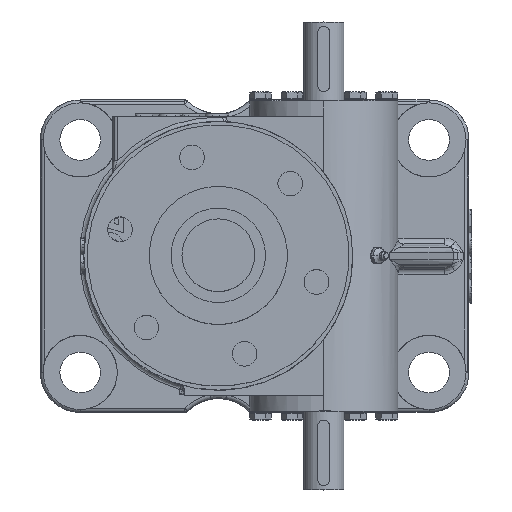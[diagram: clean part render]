
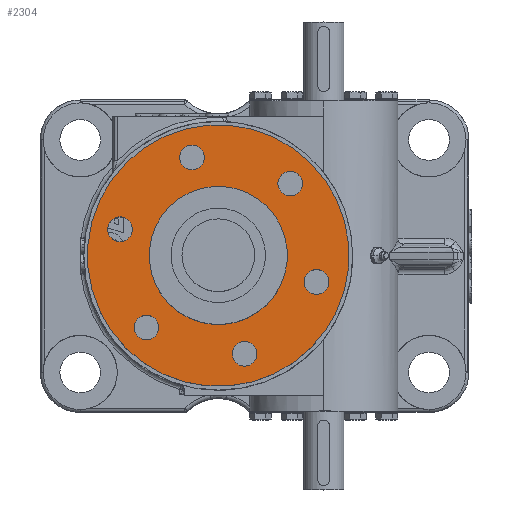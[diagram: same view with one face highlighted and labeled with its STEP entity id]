
A CAD part, top view. The second image highlights one B-rep face of the part: STEP entity #2304.
In plain terms, the highlighted planar face has unit normal (0, 0, 1).
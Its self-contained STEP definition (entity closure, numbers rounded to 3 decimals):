
#2304=ADVANCED_FACE('',(#6810,#6811,#6812,#6813,#6814,#6815,#6816,#6817),#6818,.T.);
#6810=FACE_BOUND('',#12723,.T.);
#6811=FACE_BOUND('',#12724,.T.);
#6812=FACE_BOUND('',#12725,.T.);
#6813=FACE_BOUND('',#12726,.T.);
#6814=FACE_BOUND('',#12727,.T.);
#6815=FACE_BOUND('',#12728,.T.);
#6816=FACE_OUTER_BOUND('',#12729,.T.);
#6817=FACE_BOUND('',#12730,.T.);
#6818=PLANE('',#12731);
#12723=EDGE_LOOP('',(#31684,#31685));
#12724=EDGE_LOOP('',(#31686,#31687));
#12725=EDGE_LOOP('',(#31688,#31689));
#12726=EDGE_LOOP('',(#31690,#31691));
#12727=EDGE_LOOP('',(#31692,#31693));
#12728=EDGE_LOOP('',(#31694,#31695));
#12729=EDGE_LOOP('',(#31696,#31697));
#12730=EDGE_LOOP('',(#31698,#31699));
#12731=AXIS2_PLACEMENT_3D('',#31700,#31701,#31702);
#31684=ORIENTED_EDGE('',*,*,#38018,.T.);
#31685=ORIENTED_EDGE('',*,*,#38014,.T.);
#31686=ORIENTED_EDGE('',*,*,#38020,.T.);
#31687=ORIENTED_EDGE('',*,*,#38010,.T.);
#31688=ORIENTED_EDGE('',*,*,#38022,.T.);
#31689=ORIENTED_EDGE('',*,*,#38006,.T.);
#31690=ORIENTED_EDGE('',*,*,#38024,.T.);
#31691=ORIENTED_EDGE('',*,*,#38002,.T.);
#31692=ORIENTED_EDGE('',*,*,#38026,.T.);
#31693=ORIENTED_EDGE('',*,*,#37998,.T.);
#31694=ORIENTED_EDGE('',*,*,#38028,.T.);
#31695=ORIENTED_EDGE('',*,*,#37994,.T.);
#31696=ORIENTED_EDGE('',*,*,#37992,.T.);
#31697=ORIENTED_EDGE('',*,*,#38029,.T.);
#31698=ORIENTED_EDGE('',*,*,#38030,.F.);
#31699=ORIENTED_EDGE('',*,*,#37986,.F.);
#31700=CARTESIAN_POINT('',(0.0,0.0,249.));
#31701=DIRECTION('',(0.0,-0.0,1.0));
#31702=DIRECTION('',(0.707,0.707,0.0));
#37986=EDGE_CURVE('',#48309,#48312,#48313,.T.);
#37992=EDGE_CURVE('',#48318,#48322,#48324,.T.);
#37994=EDGE_CURVE('',#48328,#48325,#48329,.T.);
#37998=EDGE_CURVE('',#48336,#48333,#48337,.T.);
#38002=EDGE_CURVE('',#48344,#48341,#48345,.T.);
#38006=EDGE_CURVE('',#48352,#48349,#48353,.T.);
#38010=EDGE_CURVE('',#48360,#48357,#48361,.T.);
#38014=EDGE_CURVE('',#48368,#48365,#48369,.T.);
#38018=EDGE_CURVE('',#48365,#48368,#48374,.T.);
#38020=EDGE_CURVE('',#48357,#48360,#48376,.T.);
#38022=EDGE_CURVE('',#48349,#48352,#48378,.T.);
#38024=EDGE_CURVE('',#48341,#48344,#48380,.T.);
#38026=EDGE_CURVE('',#48333,#48336,#48382,.T.);
#38028=EDGE_CURVE('',#48325,#48328,#48384,.T.);
#38029=EDGE_CURVE('',#48322,#48318,#48385,.T.);
#38030=EDGE_CURVE('',#48312,#48309,#48386,.T.);
#48309=VERTEX_POINT('',#64720);
#48312=VERTEX_POINT('',#64724);
#48313=CIRCLE('',#64725,47.5);
#48318=VERTEX_POINT('',#64731);
#48322=VERTEX_POINT('',#64736);
#48324=CIRCLE('',#64739,90.);
#48325=VERTEX_POINT('',#64740);
#48328=VERTEX_POINT('',#64744);
#48329=CIRCLE('',#64745,8.5);
#48333=VERTEX_POINT('',#64750);
#48336=VERTEX_POINT('',#64754);
#48337=CIRCLE('',#64755,8.5);
#48341=VERTEX_POINT('',#64760);
#48344=VERTEX_POINT('',#64764);
#48345=CIRCLE('',#64765,8.5);
#48349=VERTEX_POINT('',#64770);
#48352=VERTEX_POINT('',#64774);
#48353=CIRCLE('',#64775,8.5);
#48357=VERTEX_POINT('',#64780);
#48360=VERTEX_POINT('',#64784);
#48361=CIRCLE('',#64785,8.5);
#48365=VERTEX_POINT('',#64790);
#48368=VERTEX_POINT('',#64794);
#48369=CIRCLE('',#64795,8.5);
#48374=CIRCLE('',#64801,8.5);
#48376=CIRCLE('',#64803,8.5);
#48378=CIRCLE('',#64805,8.5);
#48380=CIRCLE('',#64807,8.5);
#48382=CIRCLE('',#64809,8.5);
#48384=CIRCLE('',#64811,8.5);
#48385=CIRCLE('',#64812,90.);
#48386=CIRCLE('',#64813,47.5);
#64720=CARTESIAN_POINT('',(33.588,33.588,249.));
#64724=CARTESIAN_POINT('',(-33.588,-33.588,249.));
#64725=AXIS2_PLACEMENT_3D('',#76605,#76606,#76607);
#64731=CARTESIAN_POINT('',(63.64,63.64,249.));
#64736=CARTESIAN_POINT('',(-63.64,-63.64,249.));
#64739=AXIS2_PLACEMENT_3D('',#76617,#76618,#76619);
#64740=CARTESIAN_POINT('',(55.508,55.508,249.));
#64744=CARTESIAN_POINT('',(43.487,43.487,249.));
#64745=AXIS2_PLACEMENT_3D('',#76621,#76622,#76623);
#64750=CARTESIAN_POINT('',(-20.317,75.825,249.));
#64754=CARTESIAN_POINT('',(-15.917,59.404,249.));
#64755=AXIS2_PLACEMENT_3D('',#76629,#76630,#76631);
#64760=CARTESIAN_POINT('',(-75.825,20.317,249.));
#64764=CARTESIAN_POINT('',(-59.404,15.917,249.));
#64765=AXIS2_PLACEMENT_3D('',#76637,#76638,#76639);
#64770=CARTESIAN_POINT('',(-55.508,-55.508,249.));
#64774=CARTESIAN_POINT('',(-43.487,-43.487,249.));
#64775=AXIS2_PLACEMENT_3D('',#76645,#76646,#76647);
#64780=CARTESIAN_POINT('',(20.317,-75.825,249.));
#64784=CARTESIAN_POINT('',(15.917,-59.404,249.));
#64785=AXIS2_PLACEMENT_3D('',#76653,#76654,#76655);
#64790=CARTESIAN_POINT('',(75.825,-20.317,249.));
#64794=CARTESIAN_POINT('',(59.404,-15.917,249.));
#64795=AXIS2_PLACEMENT_3D('',#76661,#76662,#76663);
#64801=AXIS2_PLACEMENT_3D('',#76671,#76672,#76673);
#64803=AXIS2_PLACEMENT_3D('',#76677,#76678,#76679);
#64805=AXIS2_PLACEMENT_3D('',#76683,#76684,#76685);
#64807=AXIS2_PLACEMENT_3D('',#76689,#76690,#76691);
#64809=AXIS2_PLACEMENT_3D('',#76695,#76696,#76697);
#64811=AXIS2_PLACEMENT_3D('',#76701,#76702,#76703);
#64812=AXIS2_PLACEMENT_3D('',#76704,#76705,#76706);
#64813=AXIS2_PLACEMENT_3D('',#76707,#76708,#76709);
#76605=CARTESIAN_POINT('',(0.0,0.0,249.));
#76606=DIRECTION('',(0.0,-0.0,1.0));
#76607=DIRECTION('',(0.707,0.707,0.0));
#76617=CARTESIAN_POINT('',(0.0,0.0,249.));
#76618=DIRECTION('',(0.0,-0.0,1.0));
#76619=DIRECTION('',(0.707,0.707,0.0));
#76621=CARTESIAN_POINT('',(49.497,49.497,249.));
#76622=DIRECTION('',(0.0,0.0,-1.0));
#76623=DIRECTION('',(0.707,0.707,0.0));
#76629=CARTESIAN_POINT('',(-18.117,67.615,249.));
#76630=DIRECTION('',(-0.0,0.0,-1.0));
#76631=DIRECTION('',(-0.259,0.966,0.0));
#76637=CARTESIAN_POINT('',(-67.615,18.117,249.));
#76638=DIRECTION('',(-0.0,0.0,-1.0));
#76639=DIRECTION('',(-0.966,0.259,0.0));
#76645=CARTESIAN_POINT('',(-49.497,-49.497,249.));
#76646=DIRECTION('',(-0.0,0.0,-1.0));
#76647=DIRECTION('',(-0.707,-0.707,0.0));
#76653=CARTESIAN_POINT('',(18.117,-67.615,249.));
#76654=DIRECTION('',(0.0,-0.0,-1.0));
#76655=DIRECTION('',(0.259,-0.966,0.0));
#76661=CARTESIAN_POINT('',(67.615,-18.117,249.));
#76662=DIRECTION('',(0.0,-0.0,-1.0));
#76663=DIRECTION('',(0.966,-0.259,0.0));
#76671=CARTESIAN_POINT('',(67.615,-18.117,249.));
#76672=DIRECTION('',(0.0,-0.0,-1.0));
#76673=DIRECTION('',(0.966,-0.259,0.0));
#76677=CARTESIAN_POINT('',(18.117,-67.615,249.));
#76678=DIRECTION('',(0.0,-0.0,-1.0));
#76679=DIRECTION('',(0.259,-0.966,0.0));
#76683=CARTESIAN_POINT('',(-49.497,-49.497,249.));
#76684=DIRECTION('',(-0.0,0.0,-1.0));
#76685=DIRECTION('',(-0.707,-0.707,0.0));
#76689=CARTESIAN_POINT('',(-67.615,18.117,249.));
#76690=DIRECTION('',(-0.0,0.0,-1.0));
#76691=DIRECTION('',(-0.966,0.259,0.0));
#76695=CARTESIAN_POINT('',(-18.117,67.615,249.));
#76696=DIRECTION('',(-0.0,0.0,-1.0));
#76697=DIRECTION('',(-0.259,0.966,0.0));
#76701=CARTESIAN_POINT('',(49.497,49.497,249.));
#76702=DIRECTION('',(0.0,0.0,-1.0));
#76703=DIRECTION('',(0.707,0.707,0.0));
#76704=CARTESIAN_POINT('',(0.0,0.0,249.));
#76705=DIRECTION('',(0.0,-0.0,1.0));
#76706=DIRECTION('',(0.707,0.707,0.0));
#76707=CARTESIAN_POINT('',(0.0,0.0,249.));
#76708=DIRECTION('',(0.0,-0.0,1.0));
#76709=DIRECTION('',(0.707,0.707,0.0));
